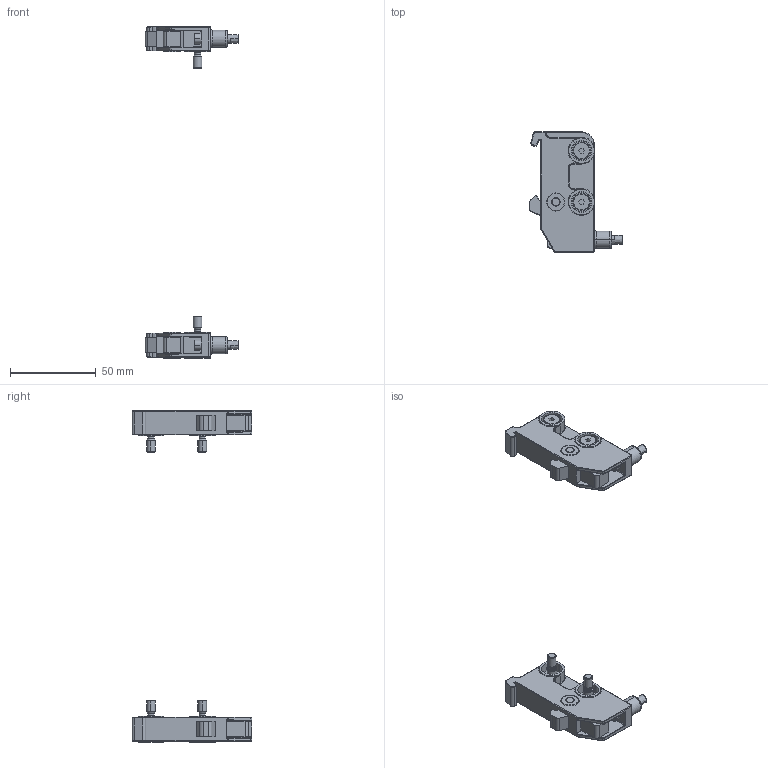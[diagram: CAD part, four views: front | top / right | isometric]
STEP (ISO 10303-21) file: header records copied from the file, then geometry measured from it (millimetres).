
FILE_DESCRIPTION((''),'2;1');
FILE_NAME('1_PMX_RAILCLIP_STEP_SW0001','2018-10-04T',('mellertr'),(''),'CREO PARAMETRIC BY PTC INC, 2017480','CREO PARAMETRIC BY PTC INC, 2017480','');
FILE_SCHEMA(('CONFIG_CONTROL_DESIGN'));
Length unit declared in the file: millimetre
Products named in the file (1): 1_PMX_RAILCLIP_STEP_SW0001
Bounding box: 54.56 x 70 x 194.05 mm (x, y, z)
Volume: 50050.1 mm3; surface area: 22313.4 mm2
Topology: 2 solids, 2 shells, 640 faces, 1462 edges, 870 vertices
Faces by surface type: bspline 640
Entity records: 30834 total; most frequent: CARTESIAN_POINT 18058, ORIENTED_EDGE 2924, DIRECTION 2012, EDGE_CURVE 1462, VERTEX_POINT 870, AXIS2_PLACEMENT_3D 686, CIRCLE 686, EDGE_LOOP 684
